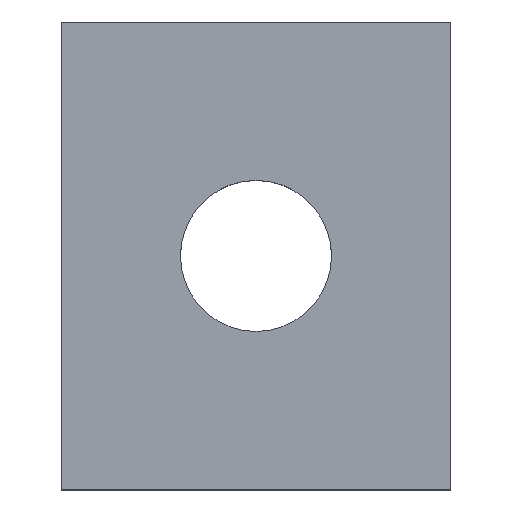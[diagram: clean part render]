
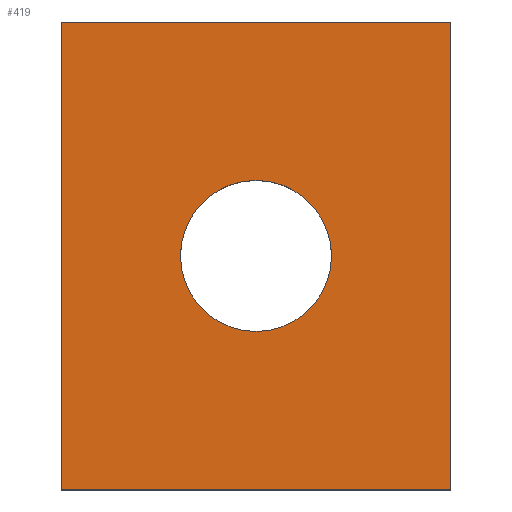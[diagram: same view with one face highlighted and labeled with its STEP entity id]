
A CAD part, top view. The second image highlights one B-rep face of the part: STEP entity #419.
In plain terms, the highlighted planar face has unit normal (0, 0, 1).
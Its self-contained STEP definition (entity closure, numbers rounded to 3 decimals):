
#24 = VERTEX_POINT('',#25);
#25 = CARTESIAN_POINT('',(-40.,-48.,16.));
#32 = PLANE('',#33);
#33 = AXIS2_PLACEMENT_3D('',#34,#35,#36);
#34 = CARTESIAN_POINT('',(-40.,-48.,0.));
#35 = DIRECTION('',(0.,1.,0.));
#36 = DIRECTION('',(1.,0.,0.));
#44 = PLANE('',#45);
#45 = AXIS2_PLACEMENT_3D('',#46,#47,#48);
#46 = CARTESIAN_POINT('',(-40.,48.,0.));
#47 = DIRECTION('',(1.,0.,-0.));
#48 = DIRECTION('',(0.,-1.,0.));
#56 = EDGE_CURVE('',#24,#57,#59,.T.);
#57 = VERTEX_POINT('',#58);
#58 = CARTESIAN_POINT('',(40.,-48.,16.));
#59 = SURFACE_CURVE('',#60,(#64,#71),.PCURVE_S1.);
#60 = LINE('',#61,#62);
#61 = CARTESIAN_POINT('',(-40.,-48.,16.));
#62 = VECTOR('',#63,1.);
#63 = DIRECTION('',(1.,0.,0.));
#64 = PCURVE('',#32,#65);
#65 = DEFINITIONAL_REPRESENTATION('',(#66),#70);
#66 = LINE('',#67,#68);
#67 = CARTESIAN_POINT('',(0.,-16.));
#68 = VECTOR('',#69,1.);
#69 = DIRECTION('',(1.,0.));
#70 = ( GEOMETRIC_REPRESENTATION_CONTEXT(2) 
PARAMETRIC_REPRESENTATION_CONTEXT() REPRESENTATION_CONTEXT('2D SPACE',''
  ) );
#71 = PCURVE('',#72,#77);
#72 = PLANE('',#73);
#73 = AXIS2_PLACEMENT_3D('',#74,#75,#76);
#74 = CARTESIAN_POINT('',(0.,0.,16.));
#75 = DIRECTION('',(0.,0.,1.));
#76 = DIRECTION('',(1.,0.,-0.));
#77 = DEFINITIONAL_REPRESENTATION('',(#78),#82);
#78 = LINE('',#79,#80);
#79 = CARTESIAN_POINT('',(-40.,-48.));
#80 = VECTOR('',#81,1.);
#81 = DIRECTION('',(1.,0.));
#82 = ( GEOMETRIC_REPRESENTATION_CONTEXT(2) 
PARAMETRIC_REPRESENTATION_CONTEXT() REPRESENTATION_CONTEXT('2D SPACE',''
  ) );
#100 = PLANE('',#101);
#101 = AXIS2_PLACEMENT_3D('',#102,#103,#104);
#102 = CARTESIAN_POINT('',(40.,-48.,0.));
#103 = DIRECTION('',(-1.,0.,0.));
#104 = DIRECTION('',(0.,1.,0.));
#142 = EDGE_CURVE('',#57,#143,#145,.T.);
#143 = VERTEX_POINT('',#144);
#144 = CARTESIAN_POINT('',(40.,48.,16.));
#145 = SURFACE_CURVE('',#146,(#150,#157),.PCURVE_S1.);
#146 = LINE('',#147,#148);
#147 = CARTESIAN_POINT('',(40.,-48.,16.));
#148 = VECTOR('',#149,1.);
#149 = DIRECTION('',(0.,1.,0.));
#150 = PCURVE('',#100,#151);
#151 = DEFINITIONAL_REPRESENTATION('',(#152),#156);
#152 = LINE('',#153,#154);
#153 = CARTESIAN_POINT('',(0.,-16.));
#154 = VECTOR('',#155,1.);
#155 = DIRECTION('',(1.,0.));
#156 = ( GEOMETRIC_REPRESENTATION_CONTEXT(2) 
PARAMETRIC_REPRESENTATION_CONTEXT() REPRESENTATION_CONTEXT('2D SPACE',''
  ) );
#157 = PCURVE('',#72,#158);
#158 = DEFINITIONAL_REPRESENTATION('',(#159),#163);
#159 = LINE('',#160,#161);
#160 = CARTESIAN_POINT('',(40.,-48.));
#161 = VECTOR('',#162,1.);
#162 = DIRECTION('',(0.,1.));
#163 = ( GEOMETRIC_REPRESENTATION_CONTEXT(2) 
PARAMETRIC_REPRESENTATION_CONTEXT() REPRESENTATION_CONTEXT('2D SPACE',''
  ) );
#181 = PLANE('',#182);
#182 = AXIS2_PLACEMENT_3D('',#183,#184,#185);
#183 = CARTESIAN_POINT('',(40.,48.,0.));
#184 = DIRECTION('',(0.,-1.,0.));
#185 = DIRECTION('',(-1.,0.,0.));
#218 = EDGE_CURVE('',#143,#219,#221,.T.);
#219 = VERTEX_POINT('',#220);
#220 = CARTESIAN_POINT('',(-40.,48.,16.));
#221 = SURFACE_CURVE('',#222,(#226,#233),.PCURVE_S1.);
#222 = LINE('',#223,#224);
#223 = CARTESIAN_POINT('',(40.,48.,16.));
#224 = VECTOR('',#225,1.);
#225 = DIRECTION('',(-1.,0.,0.));
#226 = PCURVE('',#181,#227);
#227 = DEFINITIONAL_REPRESENTATION('',(#228),#232);
#228 = LINE('',#229,#230);
#229 = CARTESIAN_POINT('',(0.,-16.));
#230 = VECTOR('',#231,1.);
#231 = DIRECTION('',(1.,0.));
#232 = ( GEOMETRIC_REPRESENTATION_CONTEXT(2) 
PARAMETRIC_REPRESENTATION_CONTEXT() REPRESENTATION_CONTEXT('2D SPACE',''
  ) );
#233 = PCURVE('',#72,#234);
#234 = DEFINITIONAL_REPRESENTATION('',(#235),#239);
#235 = LINE('',#236,#237);
#236 = CARTESIAN_POINT('',(40.,48.));
#237 = VECTOR('',#238,1.);
#238 = DIRECTION('',(-1.,0.));
#239 = ( GEOMETRIC_REPRESENTATION_CONTEXT(2) 
PARAMETRIC_REPRESENTATION_CONTEXT() REPRESENTATION_CONTEXT('2D SPACE',''
  ) );
#289 = EDGE_CURVE('',#219,#24,#290,.T.);
#290 = SURFACE_CURVE('',#291,(#295,#302),.PCURVE_S1.);
#291 = LINE('',#292,#293);
#292 = CARTESIAN_POINT('',(-40.,48.,16.));
#293 = VECTOR('',#294,1.);
#294 = DIRECTION('',(0.,-1.,0.));
#295 = PCURVE('',#44,#296);
#296 = DEFINITIONAL_REPRESENTATION('',(#297),#301);
#297 = LINE('',#298,#299);
#298 = CARTESIAN_POINT('',(0.,-16.));
#299 = VECTOR('',#300,1.);
#300 = DIRECTION('',(1.,0.));
#301 = ( GEOMETRIC_REPRESENTATION_CONTEXT(2) 
PARAMETRIC_REPRESENTATION_CONTEXT() REPRESENTATION_CONTEXT('2D SPACE',''
  ) );
#302 = PCURVE('',#72,#303);
#303 = DEFINITIONAL_REPRESENTATION('',(#304),#308);
#304 = LINE('',#305,#306);
#305 = CARTESIAN_POINT('',(-40.,48.));
#306 = VECTOR('',#307,1.);
#307 = DIRECTION('',(0.,-1.));
#308 = ( GEOMETRIC_REPRESENTATION_CONTEXT(2) 
PARAMETRIC_REPRESENTATION_CONTEXT() REPRESENTATION_CONTEXT('2D SPACE',''
  ) );
#338 = VERTEX_POINT('',#339);
#339 = CARTESIAN_POINT('',(15.5,0.,16.));
#346 = CYLINDRICAL_SURFACE('',#347,15.5);
#347 = AXIS2_PLACEMENT_3D('',#348,#349,#350);
#348 = CARTESIAN_POINT('',(0.,0.,0.));
#349 = DIRECTION('',(-0.,-0.,-1.));
#350 = DIRECTION('',(1.,0.,-0.));
#365 = EDGE_CURVE('',#338,#338,#366,.T.);
#366 = SURFACE_CURVE('',#367,(#372,#379),.PCURVE_S1.);
#367 = CIRCLE('',#368,15.5);
#368 = AXIS2_PLACEMENT_3D('',#369,#370,#371);
#369 = CARTESIAN_POINT('',(0.,0.,16.));
#370 = DIRECTION('',(0.,0.,1.));
#371 = DIRECTION('',(1.,0.,-0.));
#372 = PCURVE('',#346,#373);
#373 = DEFINITIONAL_REPRESENTATION('',(#374),#378);
#374 = LINE('',#375,#376);
#375 = CARTESIAN_POINT('',(-0.,-16.));
#376 = VECTOR('',#377,1.);
#377 = DIRECTION('',(-1.,0.));
#378 = ( GEOMETRIC_REPRESENTATION_CONTEXT(2) 
PARAMETRIC_REPRESENTATION_CONTEXT() REPRESENTATION_CONTEXT('2D SPACE',''
  ) );
#379 = PCURVE('',#72,#380);
#380 = DEFINITIONAL_REPRESENTATION('',(#381),#385);
#381 = CIRCLE('',#382,15.5);
#382 = AXIS2_PLACEMENT_2D('',#383,#384);
#383 = CARTESIAN_POINT('',(0.,0.));
#384 = DIRECTION('',(1.,0.));
#385 = ( GEOMETRIC_REPRESENTATION_CONTEXT(2) 
PARAMETRIC_REPRESENTATION_CONTEXT() REPRESENTATION_CONTEXT('2D SPACE',''
  ) );
#419 = ADVANCED_FACE('',(#420,#426),#72,.T.);
#420 = FACE_BOUND('',#421,.T.);
#421 = EDGE_LOOP('',(#422,#423,#424,#425));
#422 = ORIENTED_EDGE('',*,*,#56,.T.);
#423 = ORIENTED_EDGE('',*,*,#142,.T.);
#424 = ORIENTED_EDGE('',*,*,#218,.T.);
#425 = ORIENTED_EDGE('',*,*,#289,.T.);
#426 = FACE_BOUND('',#427,.F.);
#427 = EDGE_LOOP('',(#428));
#428 = ORIENTED_EDGE('',*,*,#365,.T.);
